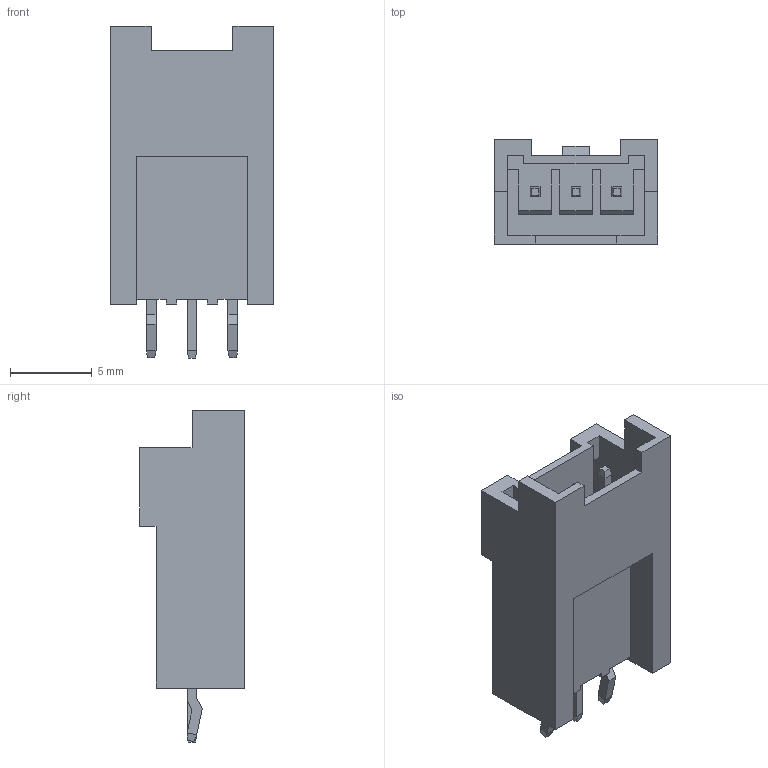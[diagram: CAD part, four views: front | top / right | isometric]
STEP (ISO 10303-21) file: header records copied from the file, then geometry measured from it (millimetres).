
FILE_DESCRIPTION (( 'STEP AP214' ), '1' );
FILE_NAME ('HC-XAH-3A-K-05 (2.50 等齬 眻渀 湖K褐-HCTL).STEP', '2025-01-07T08:14:36', ( '' ), ( '' ), 'SwSTEP 2.0', 'SolidWorks 2022', '' );
FILE_SCHEMA (( 'AUTOMOTIVE_DESIGN' ));
Length unit declared in the file: millimetre
Products named in the file (1): HC-XAH-3A-K-05 (2.50 等齬 眻渀 湖K褐-HCTL)
Bounding box: 10 x 6.4 x 20.3 mm (x, y, z)
Volume: 494.9 mm3; surface area: 891.4 mm2
Topology: 1 solids, 1 shells, 141 faces, 380 edges, 244 vertices
Faces by surface type: plane 141
Entity records: 5014 total; most frequent: CARTESIAN_POINT 766, ORIENTED_EDGE 760, DIRECTION 664, LINE 380, EDGE_CURVE 380, VECTOR 380, VERTEX_POINT 244, EDGE_LOOP 148
